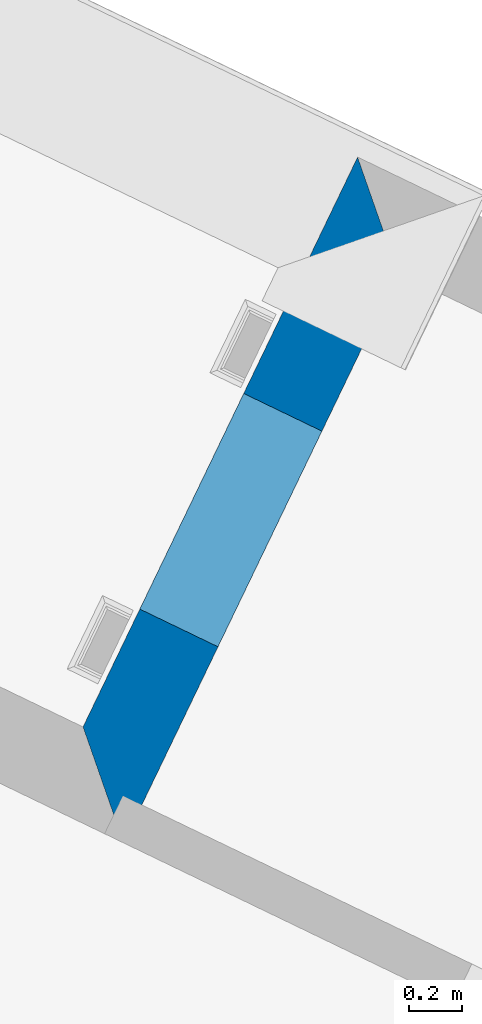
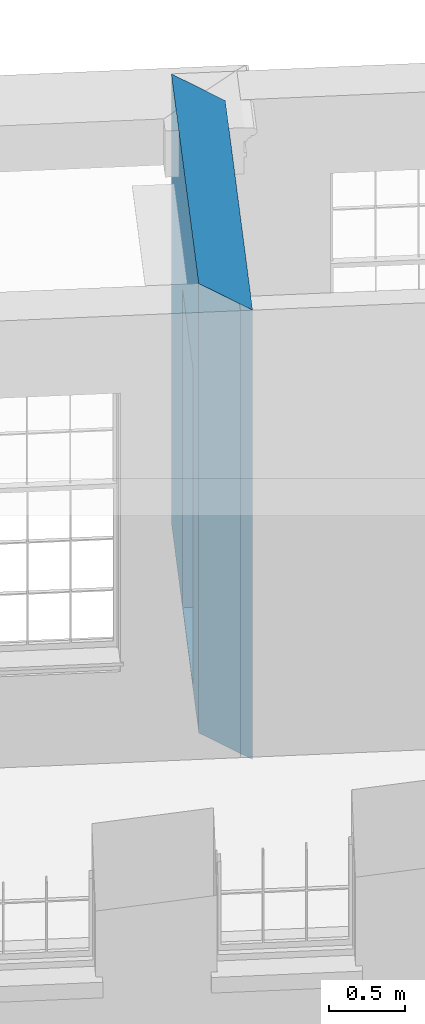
# One storey, part 5 of 6: 1 wall, 1 opening.
"""IFC4 building model written with IfcOpenShell, lengths in metres."""

from ifc_helpers import new_model, si_unit, frame, origin_with_axes, place, context, subcontext, project, spatial, polyline, outline, extrude, material, layer, layer_set, layer_usage, type_object, element, save


model = new_model("IFC4")

# Units and contexts
model_context = context("Model", 3, world=origin_with_axes())
body_context = subcontext(model_context, "Body", "Model", "MODEL_VIEW")
ifc_project = project(units=[si_unit("PLANEANGLEUNIT", "RADIAN"), si_unit("MASSUNIT", "GRAM", prefix="KILO"), si_unit("FORCEUNIT", "NEWTON", prefix="KILO"), si_unit("LENGTHUNIT", "METRE"), si_unit("AREAUNIT", "SQUARE_METRE"), si_unit("VOLUMEUNIT", "CUBIC_METRE")], contexts=[model_context, model_context])

# Sites, building, storey
site_1_placement = place(None, origin_with_axes())
site_1 = spatial("IfcSite", under=ifc_project, at=site_1_placement, Name="Tamar")
site_2_placement = place(site_1_placement, origin_with_axes())
site_2 = spatial("IfcSite", under=site_1, at=site_2_placement, Name="Site plot-1", CompositionType="ELEMENT")
building_placement = place(None, origin_with_axes())
building = spatial("IfcBuilding", under=site_2, at=building_placement, Name="Building plot-1", CompositionType="ELEMENT")
storey_placement = place(None, frame((0.0, 0.0, 26.0), z_axis=(0.0, 0.0, 1.0), x_axis=(1.0, 0.0, 0.0)))
storey = spatial("IfcBuildingStorey", under=building, at=storey_placement, Name="plot-1 0", CompositionType="ELEMENT", Elevation=26.0)

# Wall, opening
ifc_material = material(Name="Masonry")
ifc_layer = layer(ifc_material, 0.33, ventilated=False)
ifc_layer_set = layer_set([ifc_layer], Name="exterior_0.08_0.25")
ifc_layer_usage = layer_usage(ifc_layer_set, "AXIS2", "POSITIVE", -0.25)
wall_type = type_object("IfcWallType", Name="exterior_0.08_0.25", PredefinedType="SOLIDWALL", material=ifc_layer_set)
wall_placement = place(storey_placement, frame((224.092627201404, 298.781354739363, 0.0), z_axis=(0.0, 0.0, 1.0), x_axis=(-0.434117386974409, -0.900856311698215, 0.0)))
wall = element("IfcWall", 1, at=wall_placement, inside=storey, type_object=wall_type, material=ifc_layer_usage, Name="exterior", context=body_context, shape_type="SweptSolid", body=[
    extrude(outline(polyline([(0.0800000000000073, 0.0799999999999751), (-0.250000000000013, -0.250000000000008), (2.15453523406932, -0.249999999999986), (2.48453523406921, 0.0799999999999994), (0.0800000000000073, 0.0799999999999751)])), origin_with_axes(), (0.0, 0.0, 1.0), 3.6),
])
opening_placement = place(wall_placement, frame((0.747267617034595, 0.0, 0.0199999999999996)))
element("IfcOpeningElement", 2, at=opening_placement, cuts=wall, Name="My Opening", ObjectType="Opening", context=body_context, shape_type="SweptSolid", body=[
    extrude(outline(polyline([(0.0, -0.27), (0.910000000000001, -0.270000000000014), (0.910000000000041, 1.1), (3.8746783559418e-14, 1.10000000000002), (0.0, -0.27)])), origin_with_axes(), (0.0, 0.0, 1.0), 2.545),
])

save(model, "model.ifc")
